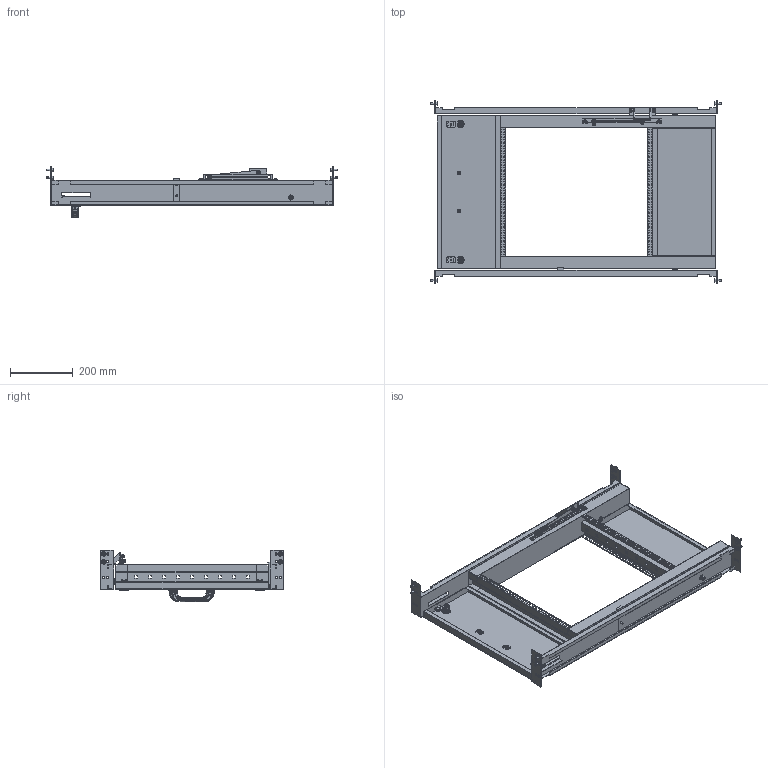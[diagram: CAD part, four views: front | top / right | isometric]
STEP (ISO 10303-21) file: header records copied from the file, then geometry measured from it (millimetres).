
FILE_DESCRIPTION(('Open CASCADE Model'),'2;1');
FILE_NAME('Open CASCADE Shape Model','2025-03-24T10:15:26',('Author'),( 'Open CASCADE'),'Open CASCADE STEP processor 7.8','Open CASCADE 7.8' ,'Unknown');
FILE_SCHEMA(('AUTOMOTIVE_DESIGN { 1 0 10303 214 1 1 1 1 }'));
Length unit declared in the file: millimetre
Products named in the file (35): Compound1; Compound2; Solid1; Solid2; Compound3; Solid3; Solid4; Solid5; Solid6; Solid7; Solid8; Solid9; Solid10; Solid11; Solid12; Solid13; Solid14; Solid15; Solid16; Solid17; Compound4; Solid18; Solid19; Solid20; Solid21; Compound5; Solid22; Solid23; Solid24; Solid25; Solid26; Solid27; Solid28; Solid29; Solid30
Assembly tree (53 placements, depth 3):
  Compound1
    Compound2
      Solid1
      Solid2
    Compound3
      Solid3
      Solid2
    Solid4  x2
    Solid5  x2
    Solid6
    Solid7
    Solid8
    Solid9
    Solid10
    Solid11  x2
    Solid12  x4
    Solid13  x8
    Solid14
    Solid15
    Solid16  x2
    Solid17  x2
    Compound4
      Solid18
      Solid19
    Solid20
    Solid21
    Compound5
      Solid22
      Solid23
      Solid24  x2
      Solid25
      Solid26  x2
      Solid27
      Solid28  x2
      Solid29
      Solid30
Bounding box: 926 x 582 x 165 mm (x, y, z)
Volume: 1677676.8 mm3; surface area: 2026903.7 mm2
Topology: 51 solids, 69 shells, 4205 faces, 11376 edges, 7271 vertices
Faces by surface type: plane 2116, cylinder 726, bspline 670, cone 439, torus 176, sphere 78
Entity records: 125337 total; most frequent: CARTESIAN_POINT 48466, ORIENTED_EDGE 16980, DIRECTION 13813, EDGE_CURVE 8660, VERTEX_POINT 5565, LINE 5147, VECTOR 5147, AXIS2_PLACEMENT_3D 4333
